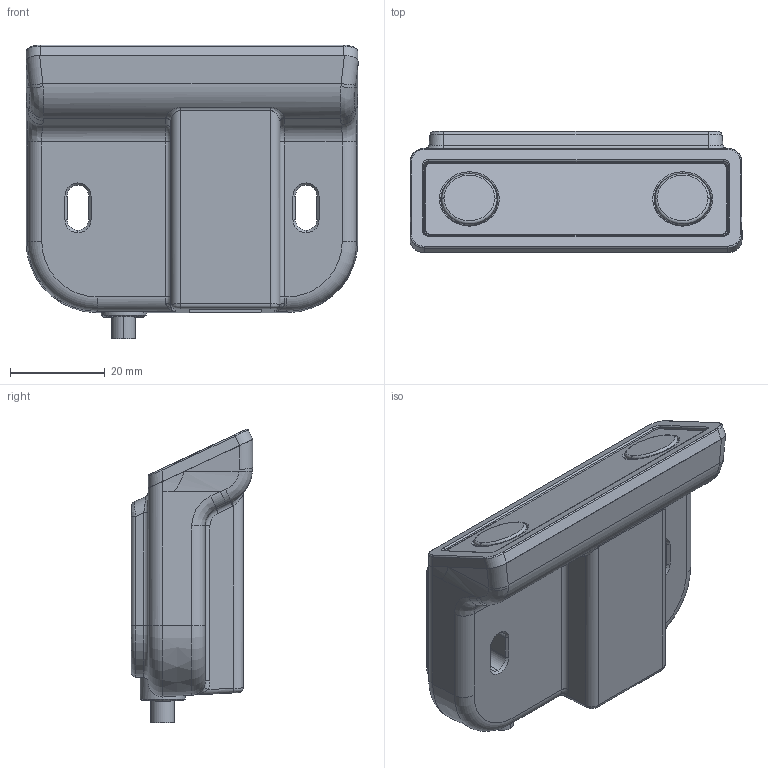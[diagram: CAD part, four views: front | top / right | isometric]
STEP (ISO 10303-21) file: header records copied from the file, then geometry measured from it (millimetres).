
FILE_DESCRIPTION (( 'STEP AP203' ), '1' );
FILE_NAME ('產品三維模型圖-TDH8-A.STEP', '2018-04-12T08:39:27', ( '' ), ( '' ), 'SwSTEP 2.0', 'SolidWorks 2015', '' );
FILE_SCHEMA (( 'CONFIG_CONTROL_DESIGN' ));
Length unit declared in the file: millimetre
Products named in the file (1): 產品三維模型圖-TDH8-A
Bounding box: 70.02 x 25.61 x 61.9 mm (x, y, z)
Volume: 61102.4 mm3; surface area: 14152.8 mm2
Topology: 1 solids, 1 shells, 346 faces, 853 edges, 522 vertices
Faces by surface type: plane 156, cylinder 96, bspline 34, cone 30, torus 30
Entity records: 12041 total; most frequent: CARTESIAN_POINT 4158, ORIENTED_EDGE 1702, DIRECTION 1556, EDGE_CURVE 851, AXIS2_PLACEMENT_3D 552, VERTEX_POINT 522, VECTOR 452, LINE 452
